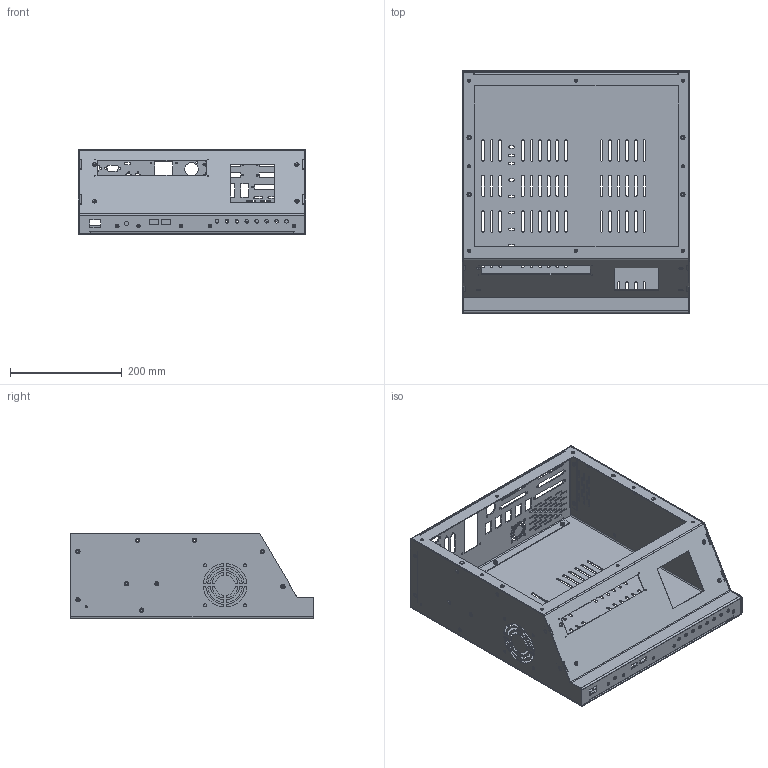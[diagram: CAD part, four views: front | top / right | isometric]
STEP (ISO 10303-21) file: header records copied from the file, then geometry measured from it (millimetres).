
FILE_DESCRIPTION(('Open CASCADE Model'),'2;1');
FILE_NAME('Open CASCADE Shape Model','2023-10-03T13:56:13',('Author'),( 'Open CASCADE'),'Open CASCADE STEP processor 7.4','Open CASCADE 7.4' ,'Unknown');
FILE_SCHEMA(('AUTOMOTIVE_DESIGN { 1 0 10303 214 1 1 1 1 }'));
Length unit declared in the file: inch
Products named in the file (47): Tiered_Consolet; Base; 6-32_1/4in_natural_phillips_flathead_screw_100_deg; FH-632-4ZI; Rear; S-632-1ZI; Cover; FEX-632
Assembly tree (46 placements, depth 2):
  Tiered_Consolet
    Base
    6-32_1/4in_natural_phillips_flathead_screw_100_deg
    6-32_1/4in_natural_phillips_flathead_screw_100_deg
    6-32_1/4in_natural_phillips_flathead_screw_100_deg
    6-32_1/4in_natural_phillips_flathead_screw_100_deg
    FH-632-4ZI
    6-32_1/4in_natural_phillips_flathead_screw_100_deg
    6-32_1/4in_natural_phillips_flathead_screw_100_deg
    6-32_1/4in_natural_phillips_flathead_screw_100_deg
    6-32_1/4in_natural_phillips_flathead_screw_100_deg
    6-32_1/4in_natural_phillips_flathead_screw_100_deg
    6-32_1/4in_natural_phillips_flathead_screw_100_deg
    6-32_1/4in_natural_phillips_flathead_screw_100_deg
    6-32_1/4in_natural_phillips_flathead_screw_100_deg
    6-32_1/4in_natural_phillips_flathead_screw_100_deg
    6-32_1/4in_natural_phillips_flathead_screw_100_deg
    Rear
    S-632-1ZI
    S-632-1ZI
    S-632-1ZI
    S-632-1ZI
    S-632-1ZI
    S-632-1ZI
    S-632-1ZI
    6-32_1/4in_natural_phillips_flathead_screw_100_deg
    6-32_1/4in_natural_phillips_flathead_screw_100_deg
    6-32_1/4in_natural_phillips_flathead_screw_100_deg
    Cover
    S-632-1ZI
    S-632-1ZI
    S-632-1ZI
    FEX-632
    FEX-632
    FEX-632
    FEX-632
    FEX-632
    FEX-632
    FEX-632
    FEX-632
    S-632-1ZI
    S-632-1ZI
    S-632-1ZI
    S-632-1ZI
    S-632-1ZI
    S-632-1ZI
    S-632-1ZI
Bounding box: 406.4 x 433.32 x 153.16 mm (x, y, z)
Volume: 670195.6 mm3; surface area: 914245.9 mm2
Topology: 46 solids, 46 shells, 1989 faces, 5498 edges, 3626 vertices
Faces by surface type: plane 941, cylinder 841, extrusion 119, bspline 45, cone 43
Full cylindrical faces by diameter (mm): 1.778 x4, 3.175 x20, 3.2 x2, 3.264 x19, 3.48 x1, 3.5 x2, 4.445 x4, 4.762 x17, 5.385 x4, 5.41 x8, 6.35 x8, 7.62 x1, 24 x1
Entity records: 151490 total; most frequent: CARTESIAN_POINT 39104, DIRECTION 20578, VECTOR 11778, LINE 11659, ORIENTED_EDGE 10996, PCURVE 10996, DEFINITIONAL_REPRESENTATION 10996, EDGE_CURVE 5498
